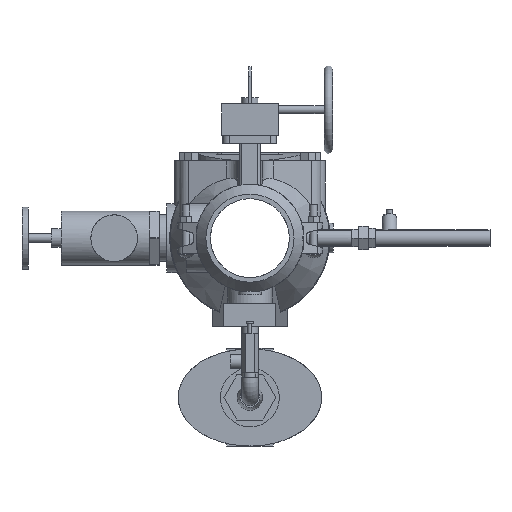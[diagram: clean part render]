
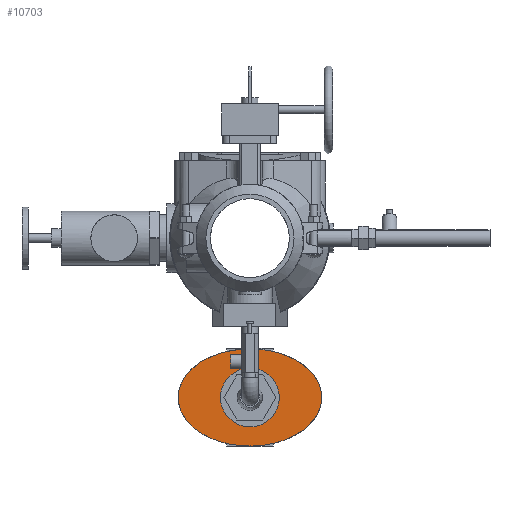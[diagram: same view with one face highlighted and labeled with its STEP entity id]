
A CAD part, front view. The second image highlights one B-rep face of the part: STEP entity #10703.
In plain terms, the highlighted planar face has unit normal (0, -1, 0).
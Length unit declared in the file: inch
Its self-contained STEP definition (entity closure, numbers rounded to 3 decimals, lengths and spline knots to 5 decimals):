
#264=ELLIPSE('',#11687,3.66142,2.48031);
#345=FACE_BOUND('',#1707,.T.);
#607=PLANE('',#11686);
#1075=FACE_OUTER_BOUND('',#1706,.T.);
#1706=EDGE_LOOP('',(#8296));
#1707=EDGE_LOOP('',(#8297));
#3966=CIRCLE('',#11688,1.5);
#4711=VERTEX_POINT('',#17777);
#4712=VERTEX_POINT('',#17779);
#5990=EDGE_CURVE('',#4711,#4711,#264,.T.);
#5991=EDGE_CURVE('',#4712,#4712,#3966,.T.);
#8296=ORIENTED_EDGE('',*,*,#5990,.T.);
#8297=ORIENTED_EDGE('',*,*,#5991,.T.);
#10703=ADVANCED_FACE('',(#1075,#345),#607,.T.);
#11686=AXIS2_PLACEMENT_3D('',#17776,#13783,#13784);
#11687=AXIS2_PLACEMENT_3D('',#17778,#13785,#13786);
#11688=AXIS2_PLACEMENT_3D('',#17780,#13787,#13788);
#13783=DIRECTION('center_axis',(0.,-1.,0.));
#13784=DIRECTION('ref_axis',(0.,0.,-1.));
#13785=DIRECTION('center_axis',(0.,-1.,0.));
#13786=DIRECTION('ref_axis',(-1.,0.,0.));
#13787=DIRECTION('center_axis',(0.,1.,0.));
#13788=DIRECTION('ref_axis',(-1.,0.,0.));
#17776=CARTESIAN_POINT('Origin',(0.,0.68,-8.13));
#17777=CARTESIAN_POINT('',(3.66142,0.68,-8.13));
#17778=CARTESIAN_POINT('Origin',(0.,0.68,-8.13));
#17779=CARTESIAN_POINT('',(1.5,0.68,-8.13));
#17780=CARTESIAN_POINT('Origin',(0.,0.68,-8.13));
